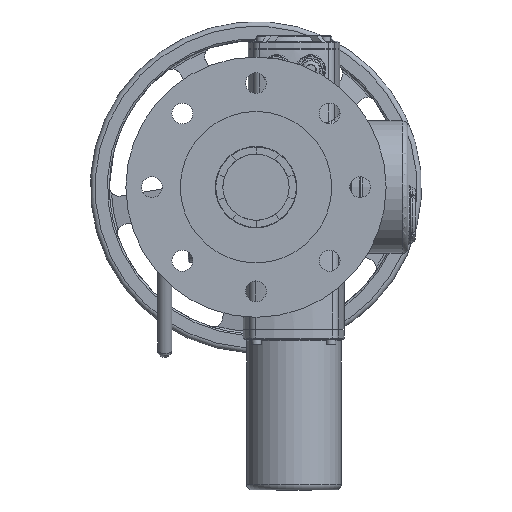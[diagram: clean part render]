
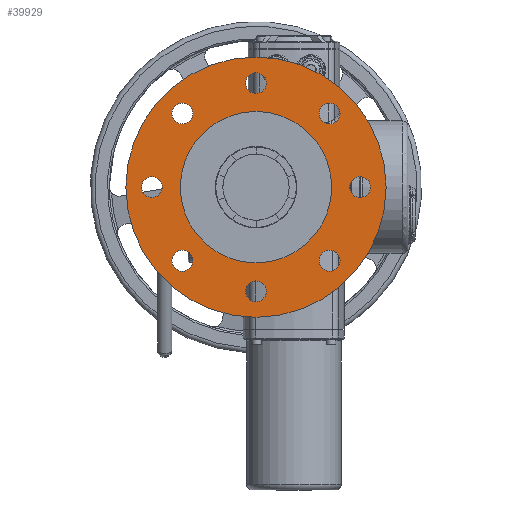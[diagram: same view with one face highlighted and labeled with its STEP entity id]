
A CAD part, front view. The second image highlights one B-rep face of the part: STEP entity #39929.
In plain terms, the highlighted planar face has unit normal (0, -1, 0).
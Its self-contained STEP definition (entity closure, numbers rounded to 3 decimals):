
#2492=PLANE('',#42327);
#3513=FACE_BOUND('',#6353,.T.);
#3514=FACE_BOUND('',#6354,.T.);
#3515=FACE_BOUND('',#6355,.T.);
#3516=FACE_BOUND('',#6356,.T.);
#3517=FACE_BOUND('',#6357,.T.);
#3518=FACE_BOUND('',#6358,.T.);
#3519=FACE_BOUND('',#6359,.T.);
#3520=FACE_BOUND('',#6360,.T.);
#3521=FACE_BOUND('',#6361,.T.);
#4063=FACE_OUTER_BOUND('',#6352,.T.);
#6352=EDGE_LOOP('',(#25889));
#6353=EDGE_LOOP('',(#25890));
#6354=EDGE_LOOP('',(#25891));
#6355=EDGE_LOOP('',(#25892));
#6356=EDGE_LOOP('',(#25893));
#6357=EDGE_LOOP('',(#25894));
#6358=EDGE_LOOP('',(#25895));
#6359=EDGE_LOOP('',(#25896));
#6360=EDGE_LOOP('',(#25897));
#6361=EDGE_LOOP('',(#25898));
#14228=CIRCLE('',#42293,80.);
#14232=CIRCLE('',#42299,11.);
#14235=CIRCLE('',#42304,11.);
#14237=CIRCLE('',#42307,11.);
#14239=CIRCLE('',#42310,11.);
#14241=CIRCLE('',#42313,11.);
#14243=CIRCLE('',#42316,11.);
#14245=CIRCLE('',#42319,11.);
#14247=CIRCLE('',#42322,11.);
#14249=CIRCLE('',#42325,137.5);
#15757=VERTEX_POINT('',#55391);
#15761=VERTEX_POINT('',#55402);
#15764=VERTEX_POINT('',#55412);
#15766=VERTEX_POINT('',#55418);
#15768=VERTEX_POINT('',#55424);
#15770=VERTEX_POINT('',#55430);
#15772=VERTEX_POINT('',#55436);
#15774=VERTEX_POINT('',#55442);
#15776=VERTEX_POINT('',#55448);
#15778=VERTEX_POINT('',#55454);
#19717=EDGE_CURVE('',#15757,#15757,#14228,.T.);
#19723=EDGE_CURVE('',#15761,#15761,#14232,.T.);
#19728=EDGE_CURVE('',#15764,#15764,#14235,.T.);
#19731=EDGE_CURVE('',#15766,#15766,#14237,.T.);
#19734=EDGE_CURVE('',#15768,#15768,#14239,.T.);
#19737=EDGE_CURVE('',#15770,#15770,#14241,.T.);
#19740=EDGE_CURVE('',#15772,#15772,#14243,.T.);
#19743=EDGE_CURVE('',#15774,#15774,#14245,.T.);
#19746=EDGE_CURVE('',#15776,#15776,#14247,.T.);
#19749=EDGE_CURVE('',#15778,#15778,#14249,.T.);
#25889=ORIENTED_EDGE('',*,*,#19749,.F.);
#25890=ORIENTED_EDGE('',*,*,#19717,.T.);
#25891=ORIENTED_EDGE('',*,*,#19746,.F.);
#25892=ORIENTED_EDGE('',*,*,#19743,.F.);
#25893=ORIENTED_EDGE('',*,*,#19740,.F.);
#25894=ORIENTED_EDGE('',*,*,#19737,.F.);
#25895=ORIENTED_EDGE('',*,*,#19734,.F.);
#25896=ORIENTED_EDGE('',*,*,#19731,.F.);
#25897=ORIENTED_EDGE('',*,*,#19728,.F.);
#25898=ORIENTED_EDGE('',*,*,#19723,.F.);
#39929=ADVANCED_FACE('',(#4063,#3513,#3514,#3515,#3516,#3517,#3518,#3519,
#3520,#3521),#2492,.F.);
#42293=AXIS2_PLACEMENT_3D('',#55392,#45917,#45918);
#42299=AXIS2_PLACEMENT_3D('',#55404,#45931,#45932);
#42304=AXIS2_PLACEMENT_3D('',#55414,#45943,#45944);
#42307=AXIS2_PLACEMENT_3D('',#55420,#45950,#45951);
#42310=AXIS2_PLACEMENT_3D('',#55426,#45957,#45958);
#42313=AXIS2_PLACEMENT_3D('',#55432,#45964,#45965);
#42316=AXIS2_PLACEMENT_3D('',#55438,#45971,#45972);
#42319=AXIS2_PLACEMENT_3D('',#55444,#45978,#45979);
#42322=AXIS2_PLACEMENT_3D('',#55450,#45985,#45986);
#42325=AXIS2_PLACEMENT_3D('',#55456,#45992,#45993);
#42327=AXIS2_PLACEMENT_3D('',#55458,#45996,#45997);
#45917=DIRECTION('center_axis',(0.,1.,0.));
#45918=DIRECTION('ref_axis',(1.,0.,0.));
#45931=DIRECTION('center_axis',(0.,-1.,0.));
#45932=DIRECTION('ref_axis',(1.,0.,0.));
#45943=DIRECTION('center_axis',(0.,-1.,0.));
#45944=DIRECTION('ref_axis',(1.,0.,0.));
#45950=DIRECTION('center_axis',(0.,-1.,0.));
#45951=DIRECTION('ref_axis',(1.,0.,0.));
#45957=DIRECTION('center_axis',(0.,-1.,0.));
#45958=DIRECTION('ref_axis',(1.,0.,0.));
#45964=DIRECTION('center_axis',(0.,-1.,0.));
#45965=DIRECTION('ref_axis',(1.,0.,0.));
#45971=DIRECTION('center_axis',(0.,-1.,0.));
#45972=DIRECTION('ref_axis',(1.,0.,0.));
#45978=DIRECTION('center_axis',(0.,-1.,0.));
#45979=DIRECTION('ref_axis',(1.,0.,0.));
#45985=DIRECTION('center_axis',(0.,-1.,0.));
#45986=DIRECTION('ref_axis',(1.,0.,0.));
#45992=DIRECTION('center_axis',(0.,1.,0.));
#45993=DIRECTION('ref_axis',(-1.,0.,0.));
#45996=DIRECTION('center_axis',(0.,1.,0.));
#45997=DIRECTION('ref_axis',(0.,0.,
1.));
#55391=CARTESIAN_POINT('',(-80.,-236.05,0.));
#55392=CARTESIAN_POINT('Origin',(0.,-236.05,
0.));
#55402=CARTESIAN_POINT('',(66.782,-236.05,-77.782));
#55404=CARTESIAN_POINT('Origin',(77.782,-236.05,-77.782));
#55412=CARTESIAN_POINT('',(99.,-236.05,0.));
#55414=CARTESIAN_POINT('Origin',(110.,-236.05,0.));
#55418=CARTESIAN_POINT('',(66.782,-236.05,77.782));
#55420=CARTESIAN_POINT('Origin',(77.782,-236.05,77.782));
#55424=CARTESIAN_POINT('',(-11.,-236.05,110.));
#55426=CARTESIAN_POINT('Origin',(0.,-236.05,
110.));
#55430=CARTESIAN_POINT('',(-88.782,-236.05,77.782));
#55432=CARTESIAN_POINT('Origin',(-77.782,-236.05,77.782));
#55436=CARTESIAN_POINT('',(-121.,-236.05,0.));
#55438=CARTESIAN_POINT('Origin',(-110.,-236.05,0.));
#55442=CARTESIAN_POINT('',(-88.782,-236.05,-77.782));
#55444=CARTESIAN_POINT('Origin',(-77.782,-236.05,-77.782));
#55448=CARTESIAN_POINT('',(-11.,-236.05,-110.));
#55450=CARTESIAN_POINT('Origin',(0.,-236.05,
-110.));
#55454=CARTESIAN_POINT('',(137.5,-236.05,0.));
#55456=CARTESIAN_POINT('Origin',(0.,-236.05,
0.));
#55458=CARTESIAN_POINT('Origin',(0.,-236.05,
0.));
